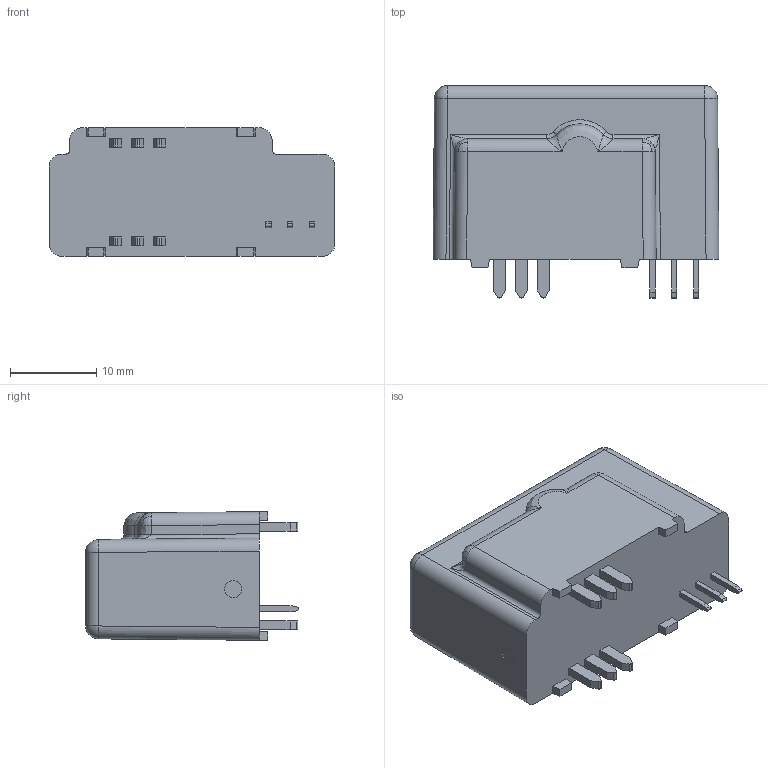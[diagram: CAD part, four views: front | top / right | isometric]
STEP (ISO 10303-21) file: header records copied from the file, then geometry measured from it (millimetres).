
FILE_DESCRIPTION(('Creo Elements/Direct Modeling STEP Export'),'2;1');
FILE_NAME('BBOX_LH-100.stp','2016-07-18T10:21:01',(''),(''),'PTC Creo Elements/Direct Modeling STEP processor for AP214 (Solid Model)','PTC Creo Elements/Direct Modeling 19.0B 21-Mar-2015 (C) Parametric Technology GmbH','');
FILE_SCHEMA(('AUTOMOTIVE_DESIGN { 1 0 10303 214 1 1 1 1 }'));
Length unit declared in the file: millimetre
Products named in the file (2): LH_100-P
Assembly tree (1 placements, depth 2):
  LH_100-P
    LH_100-P
Bounding box: 33.2 x 24.7 x 14.95 mm (x, y, z)
Volume: 8742.2 mm3; surface area: 2844.5 mm2
Topology: 1 solids, 1 shells, 265 faces, 691 edges, 444 vertices
Faces by surface type: plane 189, cylinder 53, bspline 18, sphere 4, extrusion 1
Entity records: 10683 total; most frequent: CARTESIAN_POINT 4388, ORIENTED_EDGE 1366, DIRECTION 1171, EDGE_CURVE 683, VECTOR 531, LINE 530, VERTEX_POINT 444, AXIS2_PLACEMENT_3D 320
